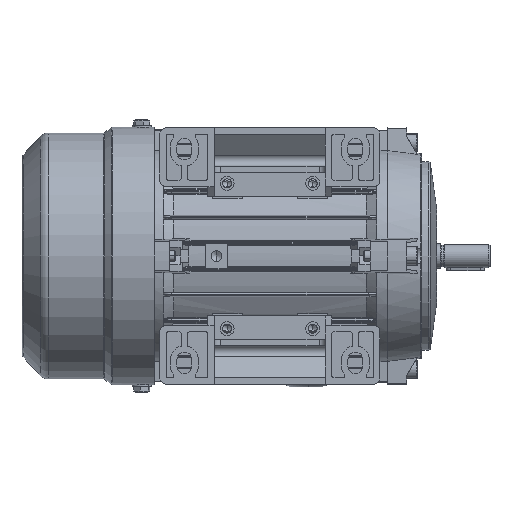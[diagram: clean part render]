
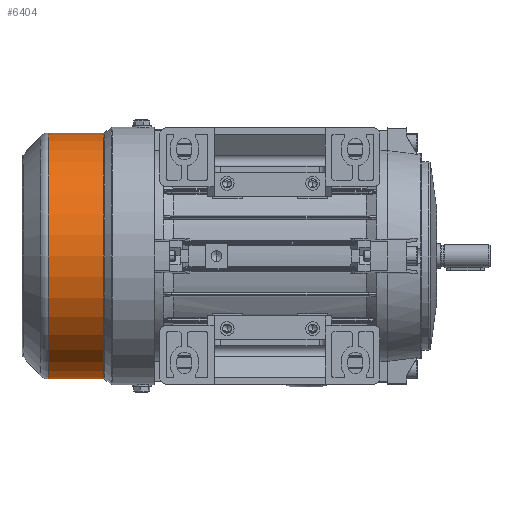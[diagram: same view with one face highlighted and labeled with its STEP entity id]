
A CAD part, front view. The second image highlights one B-rep face of the part: STEP entity #6404.
In plain terms, the highlighted cylindrical face has radius 57.5 mm (diameter 115 mm), a partial arc.
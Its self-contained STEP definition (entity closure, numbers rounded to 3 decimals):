
#1692 = CARTESIAN_POINT ( 'NONE',  ( 0., 0., 0. ) ) ;
#6404 = ADVANCED_FACE ( 'NONE', ( #35719 ), #7442, .T. ) ;
#7442 = CYLINDRICAL_SURFACE ( 'NONE', #20866, 57.5 ) ;
#10570 = DIRECTION ( 'NONE',  ( 0., 0., 1. ) ) ;
#12275 = VECTOR ( 'NONE', #25627, 1000. ) ;
#19510 = ORIENTED_EDGE ( 'NONE', *, *, #89123, .T. ) ;
#20866 = AXIS2_PLACEMENT_3D ( 'NONE', #1692, #80854, #10570 ) ;
#23913 = VERTEX_POINT ( 'NONE', #62496 ) ;
#25146 = EDGE_CURVE ( 'NONE', #72874, #23913, #68690, .T. ) ;
#25627 = DIRECTION ( 'NONE',  ( -1., 0., 0. ) ) ;
#29184 = DIRECTION ( 'NONE',  ( -1., 0., 0. ) ) ;
#35719 = FACE_OUTER_BOUND ( 'NONE', #58278, .T. ) ;
#36123 = CARTESIAN_POINT ( 'NONE',  ( 10.193, 0., 0. ) ) ;
#36430 = VERTEX_POINT ( 'NONE', #51390 ) ;
#42551 = DIRECTION ( 'NONE',  ( -1., 0., 0. ) ) ;
#44492 = CIRCLE ( 'NONE', #88153, 57.5 ) ;
#44845 = CARTESIAN_POINT ( 'NONE',  ( 36.149, 0., 57.5 ) ) ;
#45062 = ORIENTED_EDGE ( 'NONE', *, *, #86375, .T. ) ;
#45325 = CARTESIAN_POINT ( 'NONE',  ( 36.149, 0., 0. ) ) ;
#47097 = EDGE_CURVE ( 'NONE', #51598, #36430, #93603, .T. ) ;
#48641 = CIRCLE ( 'NONE', #97124, 57.5 ) ;
#51197 = CARTESIAN_POINT ( 'NONE',  ( 0., 0., 57.5 ) ) ;
#51390 = CARTESIAN_POINT ( 'NONE',  ( 10.193, 0., -57.5 ) ) ;
#51598 = VERTEX_POINT ( 'NONE', #72978 ) ;
#52007 = DIRECTION ( 'NONE',  ( 1., 0., 0. ) ) ;
#58278 = EDGE_LOOP ( 'NONE', ( #100037, #45062, #63371, #19510 ) ) ;
#58790 = VECTOR ( 'NONE', #42551, 1000. ) ;
#59651 = DIRECTION ( 'NONE',  ( 0., 0., -1. ) ) ;
#60571 = DIRECTION ( 'NONE',  ( 0., 0., 1. ) ) ;
#62496 = CARTESIAN_POINT ( 'NONE',  ( 10.193, 0., 57.5 ) ) ;
#63371 = ORIENTED_EDGE ( 'NONE', *, *, #25146, .T. ) ;
#68690 = LINE ( 'NONE', #51197, #58790 ) ;
#72514 = CARTESIAN_POINT ( 'NONE',  ( 0., 0., -57.5 ) ) ;
#72874 = VERTEX_POINT ( 'NONE', #44845 ) ;
#72978 = CARTESIAN_POINT ( 'NONE',  ( 36.149, 0., -57.5 ) ) ;
#80854 = DIRECTION ( 'NONE',  ( -1., 0., 0. ) ) ;
#86375 = EDGE_CURVE ( 'NONE', #51598, #72874, #48641, .T. ) ;
#88153 = AXIS2_PLACEMENT_3D ( 'NONE', #36123, #52007, #59651 ) ;
#89123 = EDGE_CURVE ( 'NONE', #23913, #36430, #44492, .T. ) ;
#93603 = LINE ( 'NONE', #72514, #12275 ) ;
#97124 = AXIS2_PLACEMENT_3D ( 'NONE', #45325, #29184, #60571 ) ;
#100037 = ORIENTED_EDGE ( 'NONE', *, *, #47097, .F. ) ;
